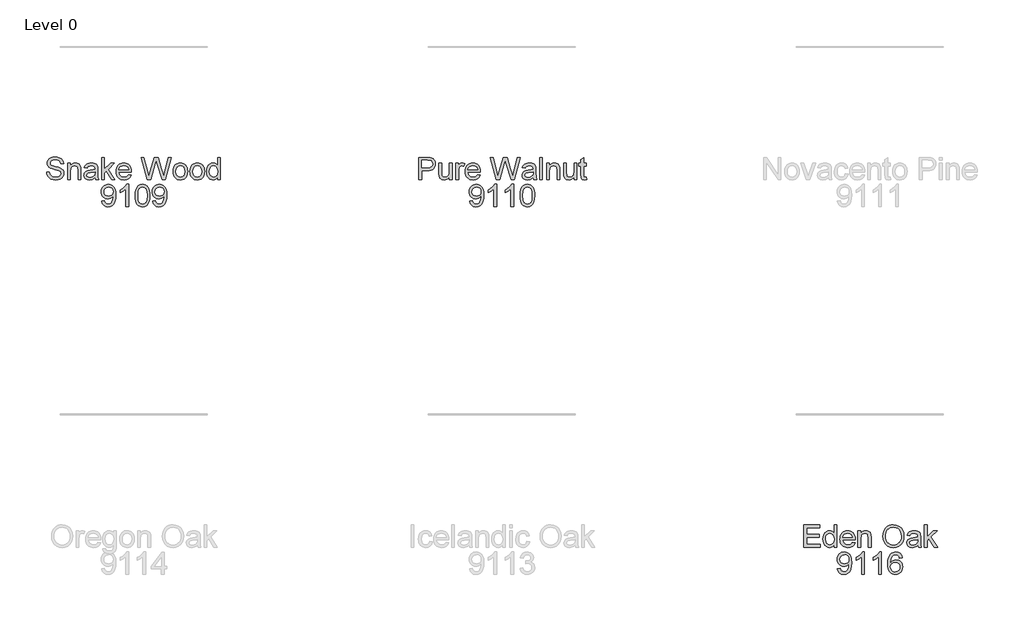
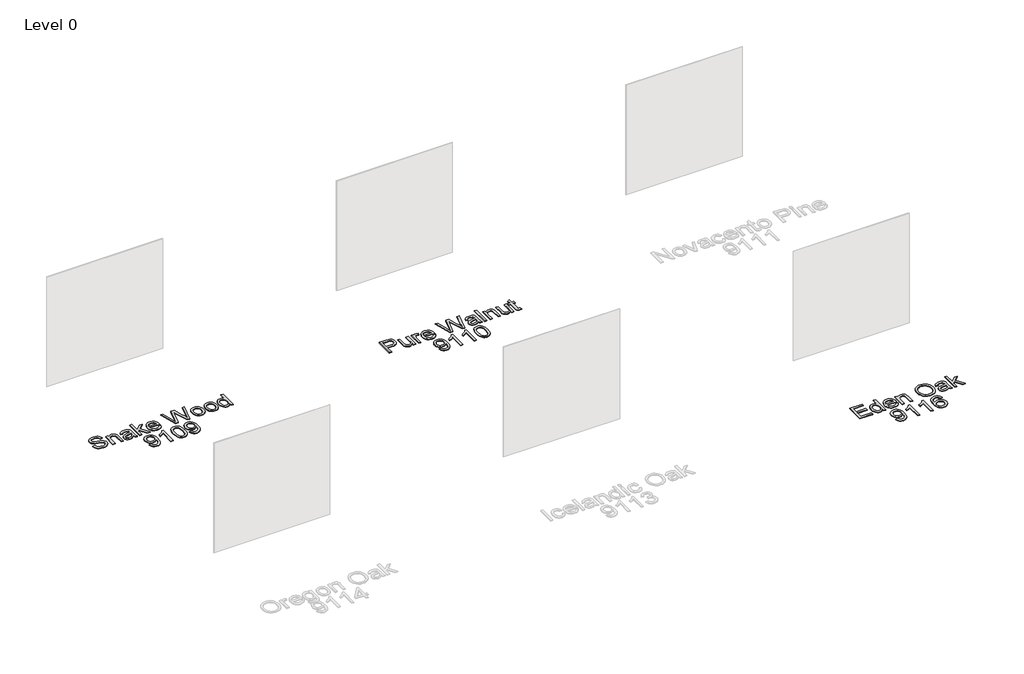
# One storey, part 7 of 10: 3 proxies.
"""IFC4 building model written with IfcOpenShell, lengths in millimetres."""

from ifc_helpers import new_model, si_unit, origin, origin_with_axes, place, context, project, spatial, polyline, outline, extrude, element, save

model = new_model("IFC4")

# Units and contexts
model_context = context("Model", 3, world=origin())
ifc_project = project(units=[si_unit("LENGTHUNIT", "METRE", prefix="MILLI")], contexts=[model_context])

# Site, building, storey
site = spatial("IfcSite", under=ifc_project)
building = spatial("IfcBuilding", under=site)
storey = spatial("IfcBuildingStorey", under=building, Name="Level 0", Elevation=0.0)

# Proxies
placement = place(None, origin())
element("IfcBuildingElementProxy", 1, Name="300mm Arial", ObjectType="300mm Arial", at=placement, inside=storey, context=model_context, shape_type="SweptSolid", body=[
    extrude(outline(polyline([(-637.2982199, -11899.2649241), (-599.6271036, -11899.2649241), (-595.3044902, -11920.1698185), (-587.4869978, -11936.9728286), (-575.2917097, -11950.308551), (-557.835709, -11960.8115819), (-536.4985533, -11967.6265959), (-512.6598, -11969.8982672), (-491.6721322, -11968.1784189), (-473.2964265, -11963.0188739), (-458.4064027, -11954.8518936), (-447.8757806, -11944.1097394), (-441.6125897, -11931.7764955), (-439.5248593, -11918.8362463), (-441.0883578, -11906.2270909), (-445.7788533, -11895.3285868), (-455.3069969, -11886.0303694), (-471.3834401, -11878.222074), (-526.2346456, -11863.837888), (-562.2410959, -11854.3189414), (-585.2797058, -11845.2598472), (-604.0324905, -11832.5863125), (-617.3222276, -11817.2272392), (-625.2408876, -11799.5137211), (-627.8804409, -11779.7768521), (-624.6154882, -11757.7131294), (-614.82063, -11737.1393289), (-598.7533839, -11719.7017223), (-576.6712671, -11707.0465817), (-550.1653694, -11699.3486509), (-520.8267803, -11696.782674), (-489.0417759, -11699.4682126), (-461.2298971, -11707.5248283), (-438.3844252, -11720.7869742), (-421.4986416, -11739.0891034), (-410.8116696, -11761.2907818), (-406.5626326, -11786.2515752), (-444.2337489, -11786.2515752), (-451.1499304, -11763.7739853), (-465.5709046, -11747.5503893), (-488.1036768, -11737.7279401), (-519.3552523, -11734.4537903), (-551.3425918, -11737.6911519), (-573.2867528, -11747.4032365), (-585.9786816, -11761.695452), (-590.2093246, -11778.6732061), (-587.2110863, -11793.1493626), (-578.2163715, -11804.7928278), (-556.9527922, -11815.2038882), (-516.7065019, -11825.8356779), (-475.1726247, -11835.9340387), (-450.0462844, -11844.7448125), (-428.5711729, -11858.4116286), (-413.5891787, -11875.2790181), (-404.7876019, -11895.1630399), (-401.853743, -11917.8797531), (-405.2290603, -11941.102304), (-415.3550123, -11962.9452975), (-431.8177315, -11981.7440675), (-454.203351, -11995.8339479), (-481.1231159, -12004.6355246), (-511.188272, -12007.5693835), (-548.0960332, -12004.4055984), (-578.4738889, -11994.9142429), (-602.6713272, -11979.0585289), (-621.0378358, -11956.8016682), (-632.8284537, -11929.6887651), (-637.2982199, -11899.2649241)])), origin_with_axes(), (0.0, 0.0, 1.0), 10.0),
    extrude(outline(polyline([(-350.0559581, -12002.860494), (-350.0559581, -11781.5426857), (-312.3848418, -11781.5426857), (-312.3848418, -11812.4447733), (-299.2974398, -11796.8649708), (-283.5796816, -11785.7365404), (-265.2315671, -11779.0594822), (-244.2530963, -11776.8337961), (-225.6842526, -11778.6272209), (-208.6789074, -11784.0074951), (-194.4970565, -11792.303234), (-184.3986957, -11802.8430532), (-173.1047184, -11830.5445674), (-171.1181557, -11866.964885), (-171.1181557, -12002.860494), (-208.789272, -12002.860494), (-208.789272, -11872.0416565), (-213.1302795, -11838.7115477), (-219.1359531, -11828.7879309), (-228.4709587, -11821.0900002), (-240.4363206, -11816.1511844), (-254.333063, -11814.5049125), (-276.3967856, -11818.2021265), (-295.2047526, -11829.2937687), (-302.7210416, -11838.3482643), (-308.0898195, -11850.7228949), (-312.3848418, -11885.4325611), (-312.3848418, -12002.860494), (-350.0559581, -12002.860494)])), origin_with_axes(), (0.0, 0.0, 1.0), 10.0),
    extrude(outline(polyline([(21.9463154, -11974.6071568), (3.9476888, -11990.0398064), (-14.5843667, -12000.1381672), (-34.0729154, -12005.7115794), (-54.9410216, -12007.5693835), (-86.4225233, -12003.0996173), (-109.6450743, -11989.6903186), (-123.9648809, -11969.3280501), (-128.7381498, -11943.9993748), (-126.935528, -11928.3827841), (-121.5276627, -11914.2009331), (-113.1859385, -11902.0608273), (-102.58174, -11892.5694718), (-76.2046009, -11880.2086368), (-43.6102561, -11874.5432541), (-5.0930112, -11868.5835657), (21.7255862, -11861.5938078), (21.9463154, -11853.2060983), (19.3527473, -11836.3938912), (11.5720431, -11825.3942195), (-5.8287752, -11817.2272392), (-30.0721987, -11814.5049125), (-52.5130004, -11816.3167313), (-68.1847734, -11821.7521878), (-78.8717454, -11831.8045633), (-86.358144, -11847.4671392), (-124.0292603, -11842.7582497), (-117.4901578, -11822.156858), (-107.7320879, -11805.9700502), (-93.8445426, -11793.590821), (-74.9170139, -11784.4121652), (-51.7680394, -11778.7283884), (-25.2161564, -11776.8337961), (0.2504747, -11778.5076592), (20.4379992, -11783.5292485), (35.6591168, -11791.0800264), (46.2265271, -11800.3414556), (53.2346791, -11811.7917827), (57.7780217, -11825.9092543), (59.6174317, -11858.8714811), (59.6174317, -11905.7396473), (61.5304181, -11971.1858542), (69.0352108, -12002.860494), (31.3640945, -12002.860494), (21.9463154, -11974.6071568)]), holes=[polyline([(21.9463154, -11899.2649241), (-38.8277902, -11910.8164188), (-71.238194, -11916.9232599), (-85.9166856, -11926.8560738), (-91.0670335, -11941.3506244), (-88.2619333, -11952.5526311), (-79.8466327, -11961.7312869), (-66.0050726, -11967.8565221), (-46.9211941, -11969.8982672), (-26.6876844, -11967.64499), (-8.8086194, -11960.8851583), (5.6859312, -11950.9247533), (15.7658979, -11939.069756), (20.2356641, -11926.8560738), (21.7255862, -11909.933502), (21.9463154, -11899.2649241)])]), origin_with_axes(), (0.0, 0.0, 1.0), 10.0),
    extrude(outline(polyline([(111.4152166, -12002.860494), (111.4152166, -11701.4915635), (149.0863329, -11701.4915635), (149.0863329, -11863.4332178), (233.552039, -11781.5426857), (285.6441295, -11781.5426857), (200.1483539, -11864.4632874), (290.3530191, -12002.860494), (246.3543325, -12002.860494), (173.1458154, -11890.6564855), (149.0863329, -11913.9802039), (149.0863329, -12002.860494), (111.4152166, -12002.860494)])), origin_with_axes(), (0.0, 0.0, 1.0), 10.0),
    extrude(outline(polyline([(478.2671422, -11936.9360404), (515.2024945, -11941.64493), (501.8943634, -11969.4752029), (480.6583752, -11990.2789297), (451.9727766, -12003.2467701), (416.3158142, -12007.5693835), (392.941512, -12005.7046817), (372.1147925, -12000.1105761), (353.8356559, -11990.7870668), (338.1041021, -11977.7341537), (325.45356, -11961.3151204), (316.4174584, -11941.8932503), (310.9957975, -11919.4685435), (309.1885772, -11894.0409998), (311.0141916, -11867.7512327), (316.4910348, -11844.5792656), (325.6191069, -11824.5250983), (338.3984077, -11807.5887309), (354.0885748, -11794.133447), (371.9492456, -11784.5225298), (391.9804203, -11778.7559796), (414.1820987, -11776.8337961), (435.6687064, -11778.751381), (455.0997736, -11784.5041357), (472.4753001, -11794.0920602), (487.7952859, -11807.5151545), (500.3009745, -11824.4147337), (509.2336092, -11844.4321128), (514.59319, -11867.5672917), (516.3797169, -11893.8202706), (516.1589877, -11903.9738137), (346.8596935, -11903.9738137), (353.3804019, -11932.1719686), (368.5279431, -11952.902119), (390.3893306, -11965.6492302), (417.0515782, -11969.8982672), (437.101147, -11967.9300985), (453.9869305, -11962.0255925), (467.708929, -11951.8168672), (478.2671422, -11936.9360404)]), holes=[polyline([(346.8596935, -11866.3026974), (478.7086006, -11866.3026974), (473.613435, -11846.4002814), (463.6254388, -11832.1632482), (441.6628837, -11818.9194964), (414.0349459, -11814.5049125), (388.6418911, -11818.0273826), (367.6450263, -11828.5947929), (353.0493081, -11845.0667092), (346.8596935, -11866.3026974)])]), origin_with_axes(), (0.0, 0.0, 1.0), 10.0),
    extrude(outline(polyline([(730.4134617, -12002.860494), (648.228624, -11701.4915635), (687.0769627, -11701.4915635), (734.7544693, -11899.5592297), (749.4697491, -11960.7012173), (765.2150985, -11906.622564), (824.9591345, -11701.4915635), (880.9507741, -11701.4915635), (924.3608496, -11850.189466), (942.9572844, -11905.3717653), (956.6608888, -11960.7012173), (970.9347102, -11901.3250633), (1019.0536751, -11701.4915635), (1057.9020138, -11701.4915635), (975.6435997, -12002.860494), (935.3973094, -12002.860494), (863.1452856, -11770.359073), (853.0653189, -11737.9118811), (841.7345535, -11776.9809489), (775.8836763, -12002.860494), (730.4134617, -12002.860494)])), origin_with_axes(), (0.0, 0.0, 1.0), 10.0),
    extrude(outline(polyline([(1081.4464615, -11892.2015898), (1083.4836081, -11863.5389839), (1089.5950477, -11838.8403064), (1099.7807805, -11818.1055575), (1114.0408063, -11801.334737), (1128.3974012, -11790.6155754), (1144.2439181, -11782.9590314), (1161.5803571, -11778.3651049), (1180.4067182, -11776.8337961), (1201.1897517, -11778.698498), (1219.9816239, -11784.2926036), (1236.7823347, -11793.6161129), (1251.5918843, -11806.669026), (1263.6791071, -11823.0098843), (1272.3128377, -11842.1972296), (1277.493076, -11864.2310619), (1279.2198221, -11889.1113811), (1276.1664016, -11927.1687735), (1267.0061399, -11956.1394806), (1252.0057515, -11977.8353213), (1231.4319509, -11994.0681143), (1206.9953894, -12004.1940662), (1180.4067182, -12007.5693835), (1159.3201821, -12005.7115794), (1140.353566, -12000.1381672), (1123.5068699, -11990.8491468), (1108.7800938, -11977.8445183), (1096.8216297, -11961.3450108), (1088.2798696, -11941.5713536), (1083.1548135, -11918.5235466), (1081.4464615, -11892.2015898)]), holes=[polyline([(1119.1175778, -11892.1280134), (1123.4769795, -11926.2214773), (1136.5551844, -11950.5108861), (1156.2368711, -11965.0514219), (1180.4067182, -11969.8982672), (1204.4662007, -11965.0238308), (1224.1110992, -11950.4005215), (1237.1893042, -11925.789216), (1241.5487058, -11890.950791), (1237.161713, -11857.8506085), (1224.0007346, -11833.8922936), (1204.328245, -11819.3517577), (1180.4067182, -11814.5049125), (1156.2368711, -11819.3333636), (1136.5551844, -11833.8187172), (1123.4769795, -11858.0529436), (1119.1175778, -11892.1280134)])]), origin_with_axes(), (0.0, 0.0, 1.0), 10.0),
    extrude(outline(polyline([(1312.1820489, -11892.2015898), (1314.2191954, -11863.5389839), (1320.3306351, -11838.8403064), (1330.5163678, -11818.1055575), (1344.7763937, -11801.334737), (1359.1329885, -11790.6155754), (1374.9795055, -11782.9590314), (1392.3159445, -11778.3651049), (1411.1423056, -11776.8337961), (1431.9253391, -11778.698498), (1450.7172112, -11784.2926036), (1467.5179221, -11793.6161129), (1482.3274717, -11806.669026), (1494.4146945, -11823.0098843), (1503.048425, -11842.1972296), (1508.2286634, -11864.2310619), (1509.9554095, -11889.1113811), (1506.9019889, -11927.1687735), (1497.7417273, -11956.1394806), (1482.7413389, -11977.8353213), (1462.1675383, -11994.0681143), (1437.7309768, -12004.1940662), (1411.1423056, -12007.5693835), (1390.0557695, -12005.7115794), (1371.0891534, -12000.1381672), (1354.2424573, -11990.8491468), (1339.5156811, -11977.8445183), (1327.557217, -11961.3450108), (1319.015457, -11941.5713536), (1313.8904009, -11918.5235466), (1312.1820489, -11892.2015898)]), holes=[polyline([(1349.8531652, -11892.1280134), (1354.2125668, -11926.2214773), (1367.2907718, -11950.5108861), (1386.9724585, -11965.0514219), (1411.1423056, -11969.8982672), (1435.2017881, -11965.0238308), (1454.8466866, -11950.4005215), (1467.9248915, -11925.789216), (1472.2842932, -11890.950791), (1467.8973004, -11857.8506085), (1454.736322, -11833.8922936), (1435.0638323, -11819.3517577), (1411.1423056, -11814.5049125), (1386.9724585, -11819.3333636), (1367.2907718, -11833.8187172), (1354.2125668, -11858.0529436), (1349.8531652, -11892.1280134)])]), origin_with_axes(), (0.0, 0.0, 1.0), 10.0),
    extrude(outline(polyline([(1688.893212, -12002.860494), (1688.893212, -11967.3230932), (1677.6222273, -11984.9308452), (1663.9692068, -11997.507811), (1647.9341503, -12005.0539904), (1629.5170579, -12007.5693835), (1605.1632699, -12003.9273518), (1582.8696209, -11993.0012565), (1563.9972746, -11975.5544529), (1549.9073942, -11952.350296), (1541.1334086, -11924.3268851), (1538.2087467, -11892.422319), (1540.9034823, -11860.9132261), (1548.9876892, -11832.4575538), (1562.4521702, -11808.6739828), (1581.2877284, -11791.181194), (1604.0688209, -11780.4206456), (1629.3699051, -11776.8337961), (1647.8007931, -11779.3997731), (1664.0979655, -11787.0977038), (1677.9119344, -11798.8975188), (1688.893212, -11813.7691485), (1688.893212, -11701.4915635), (1726.5643283, -11701.4915635), (1726.5643283, -12002.860494), (1688.893212, -12002.860494)]), holes=[polyline([(1575.879863, -11892.2751662), (1580.1289001, -11926.350236), (1592.8760112, -11950.5844625), (1611.3988697, -11965.069816), (1632.9751487, -11969.8982672), (1654.5422307, -11965.2905452), (1672.5960396, -11951.4673793), (1684.8189189, -11928.1712519), (1688.893212, -11895.1446458), (1684.7453425, -11859.037028), (1672.301734, -11834.0026582), (1653.7880726, -11819.3793489), (1631.4300443, -11814.5049125), (1609.6330361, -11819.1862108), (1591.7723652, -11833.230106), (1579.8529886, -11857.3539678), (1575.879863, -11892.2751662)])]), origin_with_axes(), (0.0, 0.0, 1.0), 10.0),
    extrude(outline(polyline([(111.4152166, -12293.4427149), (149.0863329, -12288.7338254), (155.5242679, -12310.1169663), (166.0089047, -12324.6758963), (180.2827261, -12333.0360146), (198.0882147, -12335.8227207), (214.0634903, -12334.029296), (228.5856321, -12328.6490218), (240.6521615, -12320.2705094), (249.2606002, -12309.4823699), (261.5846471, -12276.7408723), (267.0293006, -12233.0364913), (266.8085714, -12225.6788514), (253.7579576, -12241.6081418), (236.679036, -12254.2264942), (216.8042112, -12262.4486568), (195.3658879, -12265.1893777), (177.4707281, -12263.5155146), (161.0149066, -12258.4939254), (145.9984234, -12250.12461), (132.4212786, -12238.4075684), (121.1709873, -12223.9544045), (113.135065, -12207.3767221), (108.3135116, -12188.6745212), (106.7063271, -12167.8478018), (108.3916865, -12146.326705), (113.4477647, -12127.0129003), (121.8745616, -12109.9063875), (133.6720773, -12095.0071667), (148.0079788, -12082.9360387), (164.0499331, -12074.3138045), (181.7979401, -12069.1404639), (201.2519999, -12067.4160171), (229.3489872, -12071.3523544), (254.925983, -12083.1613665), (276.318321, -12102.254442), (291.8613353, -12128.0429699), (301.3250996, -12163.6907352), (304.4796877, -12212.3615232), (301.3342966, -12263.96617), (291.8981235, -12303.8537754), (276.2539416, -12333.8269609), (254.4845246, -12355.6883485), (227.5279714, -12369.0424649), (196.3223811, -12373.4938371), (164.1143124, -12368.2423216), (138.4177551, -12352.4877751), (120.4467196, -12327.2234791), (111.4152166, -12293.4427149)]), holes=[polyline([(266.8085714, -12166.964885), (262.7434754, -12141.4338745), (250.5481872, -12121.788976), (231.6206586, -12109.262594), (207.358841, -12105.0871334), (182.1957125, -12109.5844908), (162.0357792, -12123.0765629), (148.7920273, -12143.7239399), (144.3774434, -12169.6872117), (148.552904, -12192.964945), (161.079286, -12211.4418182), (180.7425786, -12223.4991506), (206.3287714, -12227.5182614), (230.3974509, -12223.4991506), (249.775635, -12211.4418182), (262.5503373, -12192.2843633), (266.8085714, -12166.964885)])]), origin_with_axes(), (0.0, 0.0, 1.0), 10.0),
    extrude(outline(polyline([(478.7086006, -12368.7849475), (441.0374843, -12368.7849475), (441.0374843, -12133.9290818), (405.3529308, -12159.3497277), (365.6952517, -12178.3692268), (365.6952517, -12142.7582497), (395.2821612, -12126.6634124), (420.9143392, -12107.5151545), (441.1202578, -12087.1528861), (454.4283889, -12067.4160171), (478.7086006, -12067.4160171), (478.7086006, -12368.7849475)])), origin_with_axes(), (0.0, 0.0, 1.0), 10.0),
    extrude(outline(polyline([(568.1775018, -12220.5285035), (570.9458139, -12172.2899768), (579.2507499, -12133.8187172), (593.0095365, -12104.5261133), (612.1394003, -12083.8235541), (636.7782969, -12071.5179013), (667.0641821, -12067.4160171), (690.277536, -12069.8440382), (711.0628688, -12077.1281017), (728.445293, -12088.983099), (741.4499216, -12105.1239216), (751.2723708, -12125.4126136), (759.1082573, -12149.7112194), (764.2402112, -12180.5673217), (765.9508625, -12220.5285035), (763.2101416, -12268.4911186), (754.987979, -12306.8704077), (741.3119658, -12336.1906027), (722.2096932, -12356.9759355), (697.5156143, -12369.3643617), (667.0641821, -12373.4938371), (646.3156376, -12371.7004123), (627.9215379, -12366.3201381), (611.8818829, -12357.3530145), (598.1966727, -12344.7990414), (585.0632854, -12322.1053209), (575.6822945, -12293.828991), (570.0537, -12259.9700519), (568.1775018, -12220.5285035)]), holes=[polyline([(605.8486182, -12220.4549271), (610.2632021, -12279.7115194), (615.781432, -12299.9795181), (623.5069539, -12314.0073184), (643.2254289, -12330.3688702), (667.0641821, -12335.8227207), (690.9029354, -12330.3504761), (710.6214104, -12313.933742), (718.3469323, -12299.8829491), (723.8651622, -12279.6195489), (728.2797461, -12220.4549271), (724.012315, -12162.5319069), (718.6780261, -12142.3305869), (711.2100216, -12127.9693935), (691.5283348, -12110.8076984), (666.6227238, -12105.0871334), (643.0414879, -12110.1271167), (624.0955651, -12125.2470667), (616.1125258, -12140.8820515), (610.4103549, -12161.9616898), (605.8486182, -12220.4549271)])]), origin_with_axes(), (0.0, 0.0, 1.0), 10.0),
    extrude(outline(polyline([(803.6219788, -12293.4427149), (841.2930951, -12288.7338254), (847.73103, -12310.1169663), (858.2156668, -12324.6758963), (872.4894883, -12333.0360146), (890.2949768, -12335.8227207), (906.2702525, -12334.029296), (920.7923942, -12328.6490218), (932.8589237, -12320.2705094), (941.4673624, -12309.4823699), (953.7914092, -12276.7408723), (959.2360627, -12233.0364913), (959.0153335, -12225.6788514), (945.9647197, -12241.6081418), (928.8857981, -12254.2264942), (909.0109733, -12262.4486568), (887.5726501, -12265.1893777), (869.6774903, -12263.5155146), (853.2216688, -12258.4939254), (838.2051856, -12250.12461), (824.6280407, -12238.4075684), (813.3777494, -12223.9544045), (805.3418271, -12207.3767221), (800.5202737, -12188.6745212), (798.9130892, -12167.8478018), (800.5984486, -12146.326705), (805.6545268, -12127.0129003), (814.0813237, -12109.9063875), (825.8788395, -12095.0071667), (840.214741, -12082.9360387), (856.2566952, -12074.3138045), (874.0047022, -12069.1404639), (893.458762, -12067.4160171), (921.5557494, -12071.3523544), (947.1327451, -12083.1613665), (968.5250831, -12102.254442), (984.0680974, -12128.0429699), (993.5318617, -12163.6907352), (996.6864498, -12212.3615232), (993.5410588, -12263.96617), (984.1048856, -12303.8537754), (968.4607037, -12333.8269609), (946.6912867, -12355.6883485), (919.7347335, -12369.0424649), (888.5291432, -12373.4938371), (856.3210746, -12368.2423216), (830.6245172, -12352.4877751), (812.6534817, -12327.2234791), (803.6219788, -12293.4427149)]), holes=[polyline([(959.0153335, -12166.964885), (954.9502375, -12141.4338745), (942.7549493, -12121.788976), (923.8274207, -12109.262594), (899.5656031, -12105.0871334), (874.4024746, -12109.5844908), (854.2425413, -12123.0765629), (840.9987895, -12143.7239399), (836.5842055, -12169.6872117), (840.7596662, -12192.964945), (853.2860481, -12211.4418182), (872.9493407, -12223.4991506), (898.5355335, -12227.5182614), (922.604213, -12223.4991506), (941.9823971, -12211.4418182), (954.7570994, -12192.2843633), (959.0153335, -12166.964885)])]), origin_with_axes(), (0.0, 0.0, 1.0), 10.0),
])
element("IfcBuildingElementProxy", 2, Name="300mm Arial", ObjectType="300mm Arial", at=placement, inside=storey, context=model_context, shape_type="SweptSolid", body=[
    extrude(outline(polyline([(4421.5628993, -12002.860494), (4421.5628993, -11701.4915635), (4533.251873, -11701.4915635), (4578.2806292, -11704.3610431), (4598.3577891, -11709.7229232), (4614.8848877, -11718.4509235), (4628.1930189, -11730.9405172), (4638.6132764, -11747.5871775), (4645.3455169, -11767.222879), (4647.5895971, -11788.6795964), (4646.0743831, -11807.1794622), (4641.5287412, -11824.198603), (4633.9526714, -11839.7370188), (4623.3461736, -11853.7947095), (4608.7849444, -11865.4473717), (4589.3446802, -11873.7707019), (4565.0253811, -11878.7647), (4535.827047, -11880.429366), (4459.2340156, -11880.429366), (4459.2340156, -12002.860494), (4421.5628993, -12002.860494)]), holes=[polyline([(4459.2340156, -11842.7582497), (4538.034339, -11842.7582497), (4571.4380241, -11839.3001589), (4593.5109438, -11828.9258867), (4605.8165966, -11812.2792264), (4609.9184808, -11790.0039716), (4607.4996567, -11773.0813998), (4600.2431843, -11758.8075784), (4589.0503746, -11748.0654241), (4574.8225385, -11741.7378538), (4537.1514222, -11739.1626798), (4459.2340156, -11739.1626798), (4459.2340156, -11842.7582497)])]), origin_with_axes(), (0.0, 0.0, 1.0), 10.0),
    extrude(outline(polyline([(4835.9451786, -12002.860494), (4835.9451786, -11964.8214957), (4822.3151507, -11983.5236966), (4806.4410426, -11996.8824116), (4788.3228544, -12004.8976405), (4767.9605859, -12007.5693835), (4749.6124714, -12005.6931853), (4732.5335498, -12000.0645908), (4718.2045461, -11991.6033049), (4708.1061853, -11981.2290327), (4696.8857845, -11953.4907302), (4694.6784925, -11918.4683643), (4694.6784925, -11781.5426857), (4732.3496088, -11781.5426857), (4732.3496088, -11900.7364521), (4734.6304772, -11939.1433324), (4740.121116, -11951.9548229), (4749.529698, -11961.6944987), (4762.2308239, -11967.8473251), (4777.5990942, -11969.8982672), (4793.8502813, -11967.8013398), (4809.0530048, -11961.5105577), (4821.5885838, -11951.605335), (4829.8383375, -11938.6650858), (4834.4184684, -11920.9423707), (4835.9451786, -11896.6897502), (4835.9451786, -11781.5426857), (4873.616295, -11781.5426857), (4873.616295, -12002.860494), (4835.9451786, -12002.860494)])), origin_with_axes(), (0.0, 0.0, 1.0), 10.0),
    extrude(outline(polyline([(4925.4140799, -12002.860494), (4925.4140799, -11781.5426857), (4958.3763066, -11781.5426857), (4958.3763066, -11814.2841833), (4970.5532007, -11795.3014723), (4981.7736015, -11784.1178596), (4993.0307906, -11778.654812), (5005.3180492, -11776.8337961), (5024.080031, -11779.7400639), (5043.1363183, -11788.4588672), (5030.5547541, -11822.2304343), (5017.3110023, -11816.4362929), (5004.0672504, -11814.5049125), (4992.8192584, -11816.3627165), (4982.7668829, -11821.9361288), (4974.6458879, -11830.8020848), (4969.1920373, -11842.5375205), (4964.6119065, -11863.5803706), (4963.0851962, -11886.5362071), (4963.0851962, -12002.860494), (4925.4140799, -12002.860494)])), origin_with_axes(), (0.0, 0.0, 1.0), 10.0),
    extrude(outline(polyline([(5221.6326624, -11936.9360404), (5258.5680147, -11941.64493), (5245.2598835, -11969.4752029), (5224.0238954, -11990.2789297), (5195.3382968, -12003.2467701), (5159.6813344, -12007.5693835), (5136.3070321, -12005.7046817), (5115.4803127, -12000.1105761), (5097.201176, -11990.7870668), (5081.4696222, -11977.7341537), (5068.8190801, -11961.3151204), (5059.7829786, -11941.8932503), (5054.3613177, -11919.4685435), (5052.5540974, -11894.0409998), (5054.3797118, -11867.7512327), (5059.856555, -11844.5792656), (5068.984627, -11824.5250983), (5081.7639278, -11807.5887309), (5097.4540949, -11794.133447), (5115.3147658, -11784.5225298), (5135.3459404, -11778.7559796), (5157.5476188, -11776.8337961), (5179.0342266, -11778.751381), (5198.4652937, -11784.5041357), (5215.8408202, -11794.0920602), (5231.1608061, -11807.5151545), (5243.6664946, -11824.4147337), (5252.5991293, -11844.4321128), (5257.9587102, -11867.5672917), (5259.7452371, -11893.8202706), (5259.5245079, -11903.9738137), (5090.2252137, -11903.9738137), (5096.7459221, -11932.1719686), (5111.8934632, -11952.902119), (5133.7548508, -11965.6492302), (5160.4170984, -11969.8982672), (5180.4666671, -11967.9300985), (5197.3524507, -11962.0255925), (5211.0744491, -11951.8168672), (5221.6326624, -11936.9360404)]), holes=[polyline([(5090.2252137, -11866.3026974), (5222.0741208, -11866.3026974), (5216.9789552, -11846.4002814), (5206.990959, -11832.1632482), (5185.0284039, -11818.9194964), (5157.400466, -11814.5049125), (5132.0074113, -11818.0273826), (5111.0105464, -11828.5947929), (5096.4148283, -11845.0667092), (5090.2252137, -11866.3026974)])]), origin_with_axes(), (0.0, 0.0, 1.0), 10.0),
    extrude(outline(polyline([(5473.7789819, -12002.860494), (5391.5941442, -11701.4915635), (5430.4424829, -11701.4915635), (5478.1199894, -11899.5592297), (5492.8352692, -11960.7012173), (5508.5806186, -11906.622564), (5568.3246546, -11701.4915635), (5624.3162943, -11701.4915635), (5667.7263697, -11850.189466), (5686.3228046, -11905.3717653), (5700.0264089, -11960.7012173), (5714.3002303, -11901.3250633), (5762.4191953, -11701.4915635), (5801.267534, -11701.4915635), (5719.0091199, -12002.860494), (5678.7628296, -12002.860494), (5606.5108057, -11770.359073), (5596.4308391, -11737.9118811), (5585.1000736, -11776.9809489), (5519.2491965, -12002.860494), (5473.7789819, -12002.860494)])), origin_with_axes(), (0.0, 0.0, 1.0), 10.0),
    extrude(outline(polyline([(5975.4964469, -11974.6071568), (5957.4978203, -11990.0398064), (5938.9657648, -12000.1381672), (5919.4772161, -12005.7115794), (5898.6091099, -12007.5693835), (5867.1276082, -12003.0996173), (5843.9050572, -11989.6903186), (5829.5852506, -11969.3280501), (5824.8119817, -11943.9993748), (5826.6146035, -11928.3827841), (5832.0224688, -11914.2009331), (5840.364193, -11902.0608273), (5850.9683915, -11892.5694718), (5877.3455306, -11880.2086368), (5909.9398754, -11874.5432541), (5948.4571203, -11868.5835657), (5975.2757177, -11861.5938078), (5975.4964469, -11853.2060983), (5972.9028788, -11836.3938912), (5965.1221746, -11825.3942195), (5947.7213563, -11817.2272392), (5923.4779328, -11814.5049125), (5901.0371311, -11816.3167313), (5885.3653581, -11821.7521878), (5874.6783861, -11831.8045633), (5867.1919875, -11847.4671392), (5829.5208712, -11842.7582497), (5836.0599737, -11822.156858), (5845.8180436, -11805.9700502), (5859.7055889, -11793.590821), (5878.6331176, -11784.4121652), (5901.7820921, -11778.7283884), (5928.3339751, -11776.8337961), (5953.8006062, -11778.5076592), (5973.9881307, -11783.5292485), (5989.2092483, -11791.0800264), (5999.7766586, -11800.3414556), (6006.7848106, -11811.7917827), (6011.3281532, -11825.9092543), (6013.1675632, -11858.8714811), (6013.1675632, -11905.7396473), (6015.0805496, -11971.1858542), (6022.5853423, -12002.860494), (5984.914226, -12002.860494), (5975.4964469, -11974.6071568)]), holes=[polyline([(5975.4964469, -11899.2649241), (5914.7223413, -11910.8164188), (5882.3119375, -11916.9232599), (5867.6334459, -11926.8560738), (5862.483098, -11941.3506244), (5865.2881982, -11952.5526311), (5873.7034988, -11961.7312869), (5887.5450589, -11967.8565221), (5906.6289374, -11969.8982672), (5926.8624471, -11967.64499), (5944.7415121, -11960.8851583), (5959.2360627, -11950.9247533), (5969.3160294, -11939.069756), (5973.7857956, -11926.8560738), (5975.2757177, -11909.933502), (5975.4964469, -11899.2649241)])]), origin_with_axes(), (0.0, 0.0, 1.0), 10.0),
    extrude(outline(polyline([(6064.9653481, -12002.860494), (6064.9653481, -11701.4915635), (6102.6364644, -11701.4915635), (6102.6364644, -12002.860494), (6064.9653481, -12002.860494)])), origin_with_axes(), (0.0, 0.0, 1.0), 10.0),
    extrude(outline(polyline([(6159.1431389, -12002.860494), (6159.1431389, -11781.5426857), (6196.8142552, -11781.5426857), (6196.8142552, -11812.4447733), (6209.9016572, -11796.8649708), (6225.6194154, -11785.7365404), (6243.9675299, -11779.0594822), (6264.9460007, -11776.8337961), (6283.5148444, -11778.6272209), (6300.5201896, -11784.0074951), (6314.7020406, -11792.303234), (6324.8004013, -11802.8430532), (6336.0943786, -11830.5445674), (6338.0809414, -11866.964885), (6338.0809414, -12002.860494), (6300.409825, -12002.860494), (6300.409825, -11872.0416565), (6296.0688175, -11838.7115477), (6290.0631439, -11828.7879309), (6280.7281383, -11821.0900002), (6268.7627764, -11816.1511844), (6254.866034, -11814.5049125), (6232.8023114, -11818.2021265), (6213.9943444, -11829.2937687), (6206.4780554, -11838.3482643), (6201.1092775, -11850.7228949), (6196.8142552, -11885.4325611), (6196.8142552, -12002.860494), (6159.1431389, -12002.860494)])), origin_with_axes(), (0.0, 0.0, 1.0), 10.0),
    extrude(outline(polyline([(6531.1454124, -12002.860494), (6531.1454124, -11964.8214957), (6517.5153845, -11983.5236966), (6501.6412764, -11996.8824116), (6483.5230881, -12004.8976405), (6463.1608197, -12007.5693835), (6444.8127052, -12005.6931853), (6427.7337836, -12000.0645908), (6413.4047799, -11991.6033049), (6403.3064191, -11981.2290327), (6392.0860182, -11953.4907302), (6389.8787263, -11918.4683643), (6389.8787263, -11781.5426857), (6427.5498426, -11781.5426857), (6427.5498426, -11900.7364521), (6429.8307109, -11939.1433324), (6435.3213497, -11951.9548229), (6444.7299318, -11961.6944987), (6457.4310576, -11967.8473251), (6472.799328, -11969.8982672), (6489.0505151, -11967.8013398), (6504.2532386, -11961.5105577), (6516.7888176, -11951.605335), (6525.0385713, -11938.6650858), (6529.6187021, -11920.9423707), (6531.1454124, -11896.6897502), (6531.1454124, -11781.5426857), (6568.8165287, -11781.5426857), (6568.8165287, -12002.860494), (6531.1454124, -12002.860494)])), origin_with_axes(), (0.0, 0.0, 1.0), 10.0),
    extrude(outline(polyline([(6700.6654358, -11971.4433716), (6705.3743253, -12003.96414), (6677.1945645, -12007.5693835), (6659.1131644, -12006.005885), (6645.6302893, -12001.3153896), (6636.1021456, -11994.0865084), (6629.8849399, -11984.9078526), (6626.4636374, -11969.1441091), (6625.3232032, -11942.1599648), (6625.3232032, -11819.213802), (6597.069866, -11819.213802), (6597.069866, -11781.5426857), (6625.3232032, -11781.5426857), (6625.3232032, -11727.758338), (6662.9943195, -11705.6118419), (6662.9943195, -11781.5426857), (6700.6654358, -11781.5426857), (6700.6654358, -11819.213802), (6662.9943195, -11819.213802), (6662.9943195, -11941.0563188), (6664.9808823, -11960.4804881), (6671.4188172, -11967.3598814), (6684.2578988, -11969.8982672), (6700.6654358, -11971.4433716)])), origin_with_axes(), (0.0, 0.0, 1.0), 10.0),
    extrude(outline(polyline([(5111.4152166, -12293.4427149), (5149.0863329, -12288.7338254), (5155.5242679, -12310.1169663), (5166.0089047, -12324.6758963), (5180.2827261, -12333.0360146), (5198.0882147, -12335.8227207), (5214.0634903, -12334.029296), (5228.5856321, -12328.6490218), (5240.6521615, -12320.2705094), (5249.2606002, -12309.4823699), (5261.5846471, -12276.7408723), (5267.0293006, -12233.0364913), (5266.8085714, -12225.6788514), (5253.7579576, -12241.6081418), (5236.679036, -12254.2264942), (5216.8042112, -12262.4486568), (5195.3658879, -12265.1893777), (5177.4707281, -12263.5155146), (5161.0149066, -12258.4939254), (5145.9984234, -12250.12461), (5132.4212786, -12238.4075684), (5121.1709873, -12223.9544045), (5113.135065, -12207.3767221), (5108.3135116, -12188.6745212), (5106.7063271, -12167.8478018), (5108.3916865, -12146.326705), (5113.4477647, -12127.0129003), (5121.8745616, -12109.9063875), (5133.6720773, -12095.0071667), (5148.0079788, -12082.9360387), (5164.0499331, -12074.3138045), (5181.7979401, -12069.1404639), (5201.2519999, -12067.4160171), (5229.3489872, -12071.3523544), (5254.925983, -12083.1613665), (5276.318321, -12102.254442), (5291.8613353, -12128.0429699), (5301.3250996, -12163.6907352), (5304.4796877, -12212.3615232), (5301.3342966, -12263.96617), (5291.8981235, -12303.8537754), (5276.2539416, -12333.8269609), (5254.4845246, -12355.6883485), (5227.5279714, -12369.0424649), (5196.3223811, -12373.4938371), (5164.1143124, -12368.2423216), (5138.4177551, -12352.4877751), (5120.4467196, -12327.2234791), (5111.4152166, -12293.4427149)]), holes=[polyline([(5266.8085714, -12166.964885), (5262.7434754, -12141.4338745), (5250.5481872, -12121.788976), (5231.6206586, -12109.262594), (5207.358841, -12105.0871334), (5182.1957125, -12109.5844908), (5162.0357792, -12123.0765629), (5148.7920273, -12143.7239399), (5144.3774434, -12169.6872117), (5148.552904, -12192.964945), (5161.079286, -12211.4418182), (5180.7425786, -12223.4991506), (5206.3287714, -12227.5182614), (5230.3974509, -12223.4991506), (5249.775635, -12211.4418182), (5262.5503373, -12192.2843633), (5266.8085714, -12166.964885)])]), origin_with_axes(), (0.0, 0.0, 1.0), 10.0),
    extrude(outline(polyline([(5478.7086006, -12368.7849475), (5441.0374843, -12368.7849475), (5441.0374843, -12133.9290818), (5405.3529308, -12159.3497277), (5365.6952517, -12178.3692268), (5365.6952517, -12142.7582497), (5395.2821612, -12126.6634124), (5420.9143392, -12107.5151545), (5441.1202578, -12087.1528861), (5454.4283889, -12067.4160171), (5478.7086006, -12067.4160171), (5478.7086006, -12368.7849475)])), origin_with_axes(), (0.0, 0.0, 1.0), 10.0),
    extrude(outline(polyline([(5709.444188, -12368.7849475), (5671.7730717, -12368.7849475), (5671.7730717, -12133.9290818), (5636.0885182, -12159.3497277), (5596.4308391, -12178.3692268), (5596.4308391, -12142.7582497), (5626.0177485, -12126.6634124), (5651.6499266, -12107.5151545), (5671.8558451, -12087.1528861), (5685.1639763, -12067.4160171), (5709.444188, -12067.4160171), (5709.444188, -12368.7849475)])), origin_with_axes(), (0.0, 0.0, 1.0), 10.0),
    extrude(outline(polyline([(5798.9130892, -12220.5285035), (5801.6814012, -12172.2899768), (5809.9863373, -12133.8187172), (5823.7451239, -12104.5261133), (5842.8749876, -12083.8235541), (5867.5138843, -12071.5179013), (5897.7997695, -12067.4160171), (5921.0131234, -12069.8440382), (5941.7984561, -12077.1281017), (5959.1808804, -12088.983099), (5972.1855089, -12105.1239216), (5982.0079582, -12125.4126136), (5989.8438447, -12149.7112194), (5994.9757986, -12180.5673217), (5996.6864498, -12220.5285035), (5993.945729, -12268.4911186), (5985.7235664, -12306.8704077), (5972.0475532, -12336.1906027), (5952.9452806, -12356.9759355), (5928.2512017, -12369.3643617), (5897.7997695, -12373.4938371), (5877.051225, -12371.7004123), (5858.6571252, -12366.3201381), (5842.6174702, -12357.3530145), (5828.93226, -12344.7990414), (5815.7988728, -12322.1053209), (5806.4178819, -12293.828991), (5800.7892874, -12259.9700519), (5798.9130892, -12220.5285035)]), holes=[polyline([(5836.5842055, -12220.4549271), (5840.9987895, -12279.7115194), (5846.5170194, -12299.9795181), (5854.2425413, -12314.0073184), (5873.9610162, -12330.3688702), (5897.7997695, -12335.8227207), (5921.6385228, -12330.3504761), (5941.3569978, -12313.933742), (5949.0825197, -12299.8829491), (5954.6007496, -12279.6195489), (5959.0153335, -12220.4549271), (5954.7479024, -12162.5319069), (5949.4136134, -12142.3305869), (5941.9456089, -12127.9693935), (5922.2639222, -12110.8076984), (5897.3583111, -12105.0871334), (5873.7770752, -12110.1271167), (5854.8311525, -12125.2470667), (5846.8481132, -12140.8820515), (5841.1459423, -12161.9616898), (5836.5842055, -12220.4549271)])]), origin_with_axes(), (0.0, 0.0, 1.0), 10.0),
])
element("IfcBuildingElementProxy", 3, Name="300mm Arial", ObjectType="300mm Arial", at=placement, inside=storey, context=model_context, shape_type="SweptSolid", body=[
    extrude(outline(polyline([(9654.6529314, -17002.860494), (9654.6529314, -16701.4915635), (9871.2618502, -16701.4915635), (9871.2618502, -16739.1626798), (9692.3240477, -16739.1626798), (9692.3240477, -16828.6315811), (9861.8440711, -16828.6315811), (9861.8440711, -16866.3026974), (9692.3240477, -16866.3026974), (9692.3240477, -16965.1893777), (9875.9707397, -16965.1893777), (9875.9707397, -17002.860494), (9654.6529314, -17002.860494)])), origin_with_axes(), (0.0, 0.0, 1.0), 10.0),
    extrude(outline(polyline([(10064.3263213, -17002.860494), (10064.3263213, -16967.3230932), (10053.0553366, -16984.9308452), (10039.4023161, -16997.507811), (10023.3672596, -17005.0539904), (10004.9501672, -17007.5693835), (9980.5963791, -17003.9273518), (9958.3027302, -16993.0012565), (9939.4303839, -16975.5544529), (9925.3405035, -16952.350296), (9916.5665179, -16924.3268851), (9913.641856, -16892.422319), (9916.3365916, -16860.9132261), (9924.4207985, -16832.4575538), (9937.8852795, -16808.6739828), (9956.7208377, -16791.181194), (9979.5019302, -16780.4206456), (10004.8030144, -16776.8337961), (10023.2339024, -16779.3997731), (10039.5310748, -16787.0977038), (10053.3450437, -16798.8975188), (10064.3263213, -16813.7691485), (10064.3263213, -16701.4915635), (10101.9974376, -16701.4915635), (10101.9974376, -17002.860494), (10064.3263213, -17002.860494)]), holes=[polyline([(9951.3129723, -16892.2751662), (9955.5620094, -16926.350236), (9968.3091205, -16950.5844625), (9986.831979, -16965.069816), (10008.408258, -16969.8982672), (10029.97534, -16965.2905452), (10048.0291489, -16951.4673793), (10060.2520282, -16928.1712519), (10064.3263213, -16895.1446458), (10060.1784518, -16859.037028), (10047.7348433, -16834.0026582), (10029.2211819, -16819.3793489), (10006.8631536, -16814.5049125), (9985.0661454, -16819.1862108), (9967.2054745, -16833.230106), (9955.2860979, -16857.3539678), (9951.3129723, -16892.2751662)])]), origin_with_axes(), (0.0, 0.0, 1.0), 10.0),
    extrude(outline(polyline([(10313.4560084, -16936.9360404), (10350.3913607, -16941.64493), (10337.0832295, -16969.4752029), (10315.8472414, -16990.2789297), (10287.1616428, -17003.2467701), (10251.5046804, -17007.5693835), (10228.1303781, -17005.7046817), (10207.3036587, -17000.1105761), (10189.024522, -16990.7870668), (10173.2929682, -16977.7341537), (10160.6424261, -16961.3151204), (10151.6063246, -16941.8932503), (10146.1846637, -16919.4685435), (10144.3774434, -16894.0409998), (10146.2030578, -16867.7512327), (10151.679901, -16844.5792656), (10160.807973, -16824.5250983), (10173.5872738, -16807.5887309), (10189.2774409, -16794.133447), (10207.1381118, -16784.5225298), (10227.1692864, -16778.7559796), (10249.3709648, -16776.8337961), (10270.8575726, -16778.751381), (10290.2886397, -16784.5041357), (10307.6641662, -16794.0920602), (10322.9841521, -16807.5151545), (10335.4898406, -16824.4147337), (10344.4224753, -16844.4321128), (10349.7820561, -16867.5672917), (10351.5685831, -16893.8202706), (10351.3478539, -16903.9738137), (10182.0485597, -16903.9738137), (10188.5692681, -16932.1719686), (10203.7168092, -16952.902119), (10225.5781968, -16965.6492302), (10252.2404444, -16969.8982672), (10272.2900131, -16967.9300985), (10289.1757967, -16962.0255925), (10302.8977951, -16951.8168672), (10313.4560084, -16936.9360404)]), holes=[polyline([(10182.0485597, -16866.3026974), (10313.8974668, -16866.3026974), (10308.8023011, -16846.4002814), (10298.814305, -16832.1632482), (10276.8517499, -16818.9194964), (10249.223812, -16814.5049125), (10223.8307573, -16818.0273826), (10202.8338924, -16828.5947929), (10188.2381743, -16845.0667092), (10182.0485597, -16866.3026974)])]), origin_with_axes(), (0.0, 0.0, 1.0), 10.0),
    extrude(outline(polyline([(10389.2396994, -17002.860494), (10389.2396994, -16781.5426857), (10426.9108157, -16781.5426857), (10426.9108157, -16812.4447733), (10439.9982177, -16796.8649708), (10455.7159759, -16785.7365404), (10474.0640904, -16779.0594822), (10495.0425612, -16776.8337961), (10513.6114049, -16778.6272209), (10530.6167501, -16784.0074951), (10544.7986011, -16792.303234), (10554.8969618, -16802.8430532), (10566.1909391, -16830.5445674), (10568.1775018, -16866.964885), (10568.1775018, -17002.860494), (10530.5063855, -17002.860494), (10530.5063855, -16872.0416565), (10526.165378, -16838.7115477), (10520.1597044, -16828.7879309), (10510.8246988, -16821.0900002), (10498.8593369, -16816.1511844), (10484.9625945, -16814.5049125), (10462.8988719, -16818.2021265), (10444.0909049, -16829.2937687), (10436.5746159, -16838.3482643), (10431.205838, -16850.7228949), (10426.9108157, -16885.4325611), (10426.9108157, -17002.860494), (10389.2396994, -17002.860494)])), origin_with_axes(), (0.0, 0.0, 1.0), 10.0),
    extrude(outline(polyline([(10728.2797461, -16856.1491543), (10730.7905408, -16820.8002931), (10738.3229246, -16789.5073309), (10750.8768977, -16762.2702677), (10768.45246, -16739.0891034), (10789.9965494, -16720.5800406), (10814.4561035, -16707.3592814), (10841.8311225, -16699.4268258), (10872.1216063, -16696.782674), (10911.6505266, -16701.7490809), (10947.0959569, -16716.6483017), (10976.5265165, -16740.4318727), (10998.010825, -16772.0513302), (11011.1442122, -16809.9799639), (11015.522008, -16852.6910636), (11010.914286, -16895.9723803), (10997.09112, -16934.4344429), (10974.8158652, -16966.1090827), (10944.8518767, -16989.028131), (10909.7099491, -17002.9340704), (10871.9008771, -17007.5693835), (10831.7649514, -17002.4466267), (10796.1171861, -16987.0783564), (10766.7602028, -16962.853327), (10745.4966235, -16931.1602931), (10732.5839655, -16894.6939903), (10728.2797461, -16856.1491543)]), holes=[polyline([(10765.9508625, -16856.5170363), (10767.8339584, -16881.4916252), (10773.4832463, -16903.661114), (10782.8987261, -16923.0255025), (10796.0803979, -16939.5847908), (10812.103958, -16952.8469367), (10830.0451031, -16962.3198981), (10849.903833, -16968.0036749), (10871.6801479, -16969.8982672), (10893.8289432, -16967.9852808), (10913.922198, -16962.2463217), (10931.959912, -16952.6813898), (10947.9420855, -16939.2904852), (10961.0271882, -16922.381709), (10970.3736901, -16902.2631624), (10975.9815913, -16878.9348454), (10977.8508917, -16852.396758), (10974.6503183, -16819.0482551), (10965.0485982, -16790.2247008), (10949.2940518, -16766.6526619), (10927.6349993, -16749.0587055), (10901.5061806, -16738.1050191), (10872.3423355, -16734.4537903), (10851.322478, -16736.2127261), (10831.8201337, -16741.4895335), (10813.8353027, -16750.2842124), (10797.3679848, -16762.5967629), (10783.6229938, -16779.0203948), (10773.805143, -16800.1483176), (10767.9144326, -16825.9805314), (10765.9508625, -16856.5170363)])]), origin_with_axes(), (0.0, 0.0, 1.0), 10.0),
    extrude(outline(polyline([(11203.8775895, -16974.6071568), (11185.8789629, -16990.0398064), (11167.3469074, -17000.1381672), (11147.8583587, -17005.7115794), (11126.9902525, -17007.5693835), (11095.5087508, -17003.0996173), (11072.2861998, -16989.6903186), (11057.9663932, -16969.3280501), (11053.1931243, -16943.9993748), (11054.9957461, -16928.3827841), (11060.4036114, -16914.2009331), (11068.7453356, -16902.0608273), (11079.3495341, -16892.5694718), (11105.7266732, -16880.2086368), (11138.321018, -16874.5432541), (11176.8382629, -16868.5835657), (11203.6568603, -16861.5938078), (11203.8775895, -16853.2060983), (11201.2840214, -16836.3938912), (11193.5033172, -16825.3942195), (11176.1024989, -16817.2272392), (11151.8590754, -16814.5049125), (11129.4182737, -16816.3167313), (11113.7465007, -16821.7521878), (11103.0595287, -16831.8045633), (11095.5731301, -16847.4671392), (11057.9020138, -16842.7582497), (11064.4411163, -16822.156858), (11074.1991862, -16805.9700502), (11088.0867315, -16793.590821), (11107.0142602, -16784.4121652), (11130.1632347, -16778.7283884), (11156.7151177, -16776.8337961), (11182.1817488, -16778.5076592), (11202.3692733, -16783.5292485), (11217.5903909, -16791.0800264), (11228.1578012, -16800.3414556), (11235.1659532, -16811.7917827), (11239.7092958, -16825.9092543), (11241.5487058, -16858.8714811), (11241.5487058, -16905.7396473), (11243.4616922, -16971.1858542), (11250.9664849, -17002.860494), (11213.2953686, -17002.860494), (11203.8775895, -16974.6071568)]), holes=[polyline([(11203.8775895, -16899.2649241), (11143.1034839, -16910.8164188), (11110.6930801, -16916.9232599), (11096.0145885, -16926.8560738), (11090.8642406, -16941.3506244), (11093.6693408, -16952.5526311), (11102.0846414, -16961.7312869), (11115.9262015, -16967.8565221), (11135.01008, -16969.8982672), (11155.2435897, -16967.64499), (11173.1226547, -16960.8851583), (11187.6172053, -16950.9247533), (11197.697172, -16939.069756), (11202.1669382, -16926.8560738), (11203.6568603, -16909.933502), (11203.8775895, -16899.2649241)])]), origin_with_axes(), (0.0, 0.0, 1.0), 10.0),
    extrude(outline(polyline([(11293.3464907, -17002.860494), (11293.3464907, -16701.4915635), (11331.017607, -16701.4915635), (11331.017607, -16863.4332178), (11415.4833131, -16781.5426857), (11467.5754037, -16781.5426857), (11382.079628, -16864.4632874), (11472.2842932, -17002.860494), (11428.2856066, -17002.860494), (11355.0770895, -16890.6564855), (11331.017607, -16913.9802039), (11331.017607, -17002.860494), (11293.3464907, -17002.860494)])), origin_with_axes(), (0.0, 0.0, 1.0), 10.0),
    extrude(outline(polyline([(10111.4152166, -17293.4427149), (10149.0863329, -17288.7338254), (10155.5242679, -17310.1169663), (10166.0089047, -17324.6758963), (10180.2827261, -17333.0360146), (10198.0882147, -17335.8227207), (10214.0634903, -17334.029296), (10228.5856321, -17328.6490218), (10240.6521615, -17320.2705094), (10249.2606002, -17309.4823699), (10261.5846471, -17276.7408723), (10267.0293006, -17233.0364913), (10266.8085714, -17225.6788514), (10253.7579576, -17241.6081418), (10236.679036, -17254.2264942), (10216.8042112, -17262.4486568), (10195.3658879, -17265.1893777), (10177.4707281, -17263.5155146), (10161.0149066, -17258.4939254), (10145.9984234, -17250.12461), (10132.4212786, -17238.4075684), (10121.1709873, -17223.9544045), (10113.135065, -17207.3767221), (10108.3135116, -17188.6745212), (10106.7063271, -17167.8478018), (10108.3916865, -17146.326705), (10113.4477647, -17127.0129003), (10121.8745616, -17109.9063875), (10133.6720773, -17095.0071667), (10148.0079788, -17082.9360387), (10164.0499331, -17074.3138045), (10181.7979401, -17069.1404639), (10201.2519999, -17067.4160171), (10229.3489872, -17071.3523544), (10254.925983, -17083.1613665), (10276.318321, -17102.254442), (10291.8613353, -17128.0429699), (10301.3250996, -17163.6907352), (10304.4796877, -17212.3615232), (10301.3342966, -17263.96617), (10291.8981235, -17303.8537754), (10276.2539416, -17333.8269609), (10254.4845246, -17355.6883485), (10227.5279714, -17369.0424649), (10196.3223811, -17373.4938371), (10164.1143124, -17368.2423216), (10138.4177551, -17352.4877751), (10120.4467196, -17327.2234791), (10111.4152166, -17293.4427149)]), holes=[polyline([(10266.8085714, -17166.964885), (10262.7434754, -17141.4338745), (10250.5481872, -17121.788976), (10231.6206586, -17109.262594), (10207.358841, -17105.0871334), (10182.1957125, -17109.5844908), (10162.0357792, -17123.0765629), (10148.7920273, -17143.7239399), (10144.3774434, -17169.6872117), (10148.552904, -17192.964945), (10161.079286, -17211.4418182), (10180.7425786, -17223.4991506), (10206.3287714, -17227.5182614), (10230.3974509, -17223.4991506), (10249.775635, -17211.4418182), (10262.5503373, -17192.2843633), (10266.8085714, -17166.964885)])]), origin_with_axes(), (0.0, 0.0, 1.0), 10.0),
    extrude(outline(polyline([(10478.7086006, -17368.7849475), (10441.0374843, -17368.7849475), (10441.0374843, -17133.9290818), (10405.3529308, -17159.3497277), (10365.6952517, -17178.3692268), (10365.6952517, -17142.7582497), (10395.2821612, -17126.6634124), (10420.9143392, -17107.5151545), (10441.1202578, -17087.1528861), (10454.4283889, -17067.4160171), (10478.7086006, -17067.4160171), (10478.7086006, -17368.7849475)])), origin_with_axes(), (0.0, 0.0, 1.0), 10.0),
    extrude(outline(polyline([(10709.444188, -17368.7849475), (10671.7730717, -17368.7849475), (10671.7730717, -17133.9290818), (10636.0885182, -17159.3497277), (10596.4308391, -17178.3692268), (10596.4308391, -17142.7582497), (10626.0177485, -17126.6634124), (10651.6499266, -17107.5151545), (10671.8558451, -17087.1528861), (10685.1639763, -17067.4160171), (10709.444188, -17067.4160171), (10709.444188, -17368.7849475)])), origin_with_axes(), (0.0, 0.0, 1.0), 10.0),
    extrude(outline(polyline([(10991.9775603, -17147.4671392), (10954.306444, -17152.1760288), (10948.2363911, -17133.5060175), (10940.0326226, -17120.7589064), (10922.9445039, -17109.0050766), (10902.2879299, -17105.0871334), (10884.7767469, -17107.3680017), (10868.2956335, -17114.2106069), (10854.1413737, -17128.622384), (10842.580682, -17148.4604206), (10834.7723867, -17176.5206198), (10831.875316, -17215.5988847), (10846.9860689, -17197.9681401), (10865.0950602, -17185.5429257), (10885.1906141, -17178.1760888), (10906.2610554, -17175.7204764), (10924.3608496, -17177.3989381), (10941.0626922, -17182.4343229), (10956.3665832, -17190.8266309), (10970.2725226, -17202.5758621), (10981.8286157, -17216.9830407), (10990.082968, -17233.349191), (10995.0355794, -17251.6743129), (10996.6864498, -17271.9584064), (10993.577847, -17298.9333537), (10984.2520384, -17323.9401323), (10969.4815763, -17345.1485293), (10950.0390128, -17360.7283318), (10926.8072648, -17370.3024607), (10900.6692491, -17373.4938371), (10878.2123525, -17371.3785156), (10857.9305583, -17365.0325512), (10839.8238663, -17354.4559438), (10823.8922767, -17339.6486935), (10810.903743, -17319.9854009), (10801.6262189, -17294.8406665), (10796.0597045, -17264.2144904), (10794.2041997, -17228.1068726), (10796.2643389, -17187.6260575), (10802.4447564, -17153.0773396), (10812.7454522, -17124.4607189), (10827.1664265, -17101.7761954), (10842.7968127, -17086.7436174), (10860.9195995, -17076.0060617), (10881.5347868, -17069.5635282), (10904.6423746, -17067.4160171), (10937.6965719, -17072.7319119), (10964.1656815, -17088.6795964), (10982.706934, -17114.0082718), (10991.9775603, -17147.4671392)]), holes=[polyline([(10831.875316, -17271.3697952), (10834.0550168, -17288.0624407), (10840.5941193, -17304.0009282), (10850.7476623, -17317.7045325), (10863.770685, -17327.6925287), (10879.4884432, -17333.7901727), (10897.7261931, -17335.8227207), (10922.5858189, -17331.6104719), (10942.1295499, -17318.9737254), (10954.7938876, -17299.1080976), (10959.0153335, -17273.2092052), (10954.8490699, -17248.3495793), (10942.3502791, -17229.3944595), (10922.4754544, -17217.3923095), (10896.1810887, -17213.3915928), (10871.3582511, -17217.3923095), (10850.6005095, -17229.3944595), (10836.5566144, -17247.8897269), (10831.875316, -17271.3697952)])]), origin_with_axes(), (0.0, 0.0, 1.0), 10.0),
])

save(model, "model.ifc")
